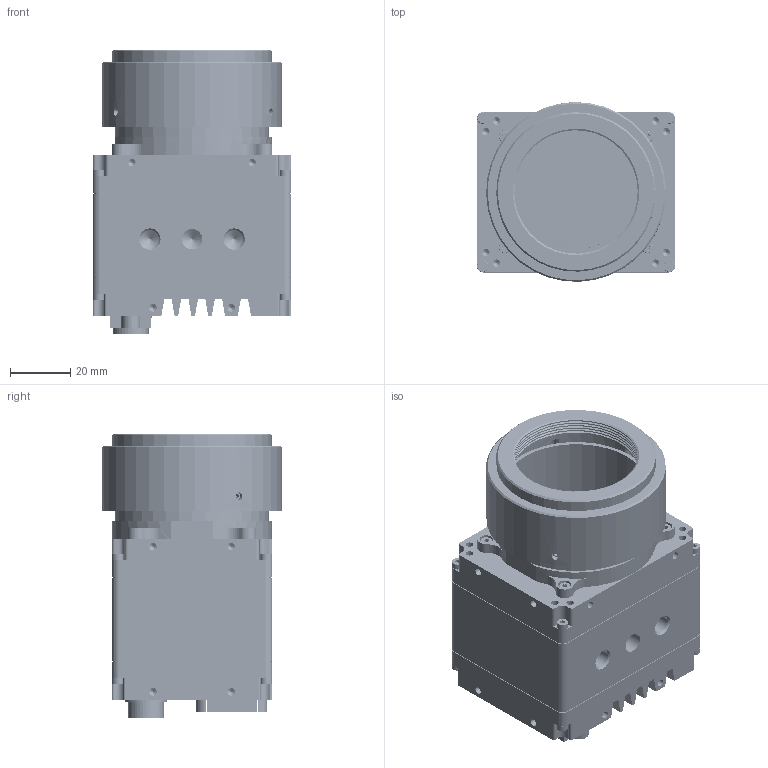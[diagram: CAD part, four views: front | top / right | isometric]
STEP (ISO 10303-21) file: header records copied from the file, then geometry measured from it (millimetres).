
FILE_DESCRIPTION (( 'STEP AP203' ), '1' );
FILE_NAME ('GT LF IMX M42-MOUNT MONO CAMERA.STEP', '2019-11-08T00:38:12', ( '' ), ( '' ), 'SwSTEP 2.0', 'SolidWorks 2018', '' );
FILE_SCHEMA (( 'CONFIG_CONTROL_DESIGN' ));
Products named in the file (1): GT LF IMX M42-MOUNT MONO CAMERA
Bounding box: 66.04 x 59.69 x 94.68 mm (x, y, z)
Volume: 115966.2 mm3; surface area: 99338.8 mm2
Topology: 357 solids, 357 shells, 23746 faces, 58802 edges, 38724 vertices
Faces by surface type: plane 16717, cylinder 5071, torus 1000, bspline 508, cone 292, sphere 158
Entity records: 723762 total; most frequent: CARTESIAN_POINT 153755, ORIENTED_EDGE 116776, DIRECTION 115819, EDGE_CURVE 58388, LINE 44179, VECTOR 44179, VERTEX_POINT 38556, AXIS2_PLACEMENT_3D 35820
